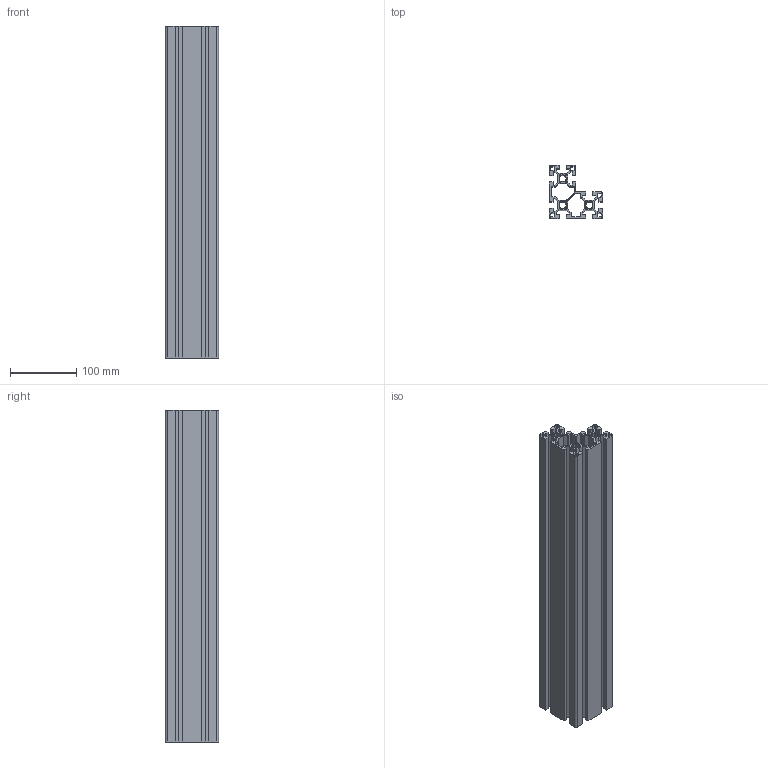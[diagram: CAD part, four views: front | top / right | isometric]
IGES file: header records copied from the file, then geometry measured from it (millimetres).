
Start section: SolidWorks IGES file using analytic representation for surfaces
Global section: file name: C:\Documents and Settings\Administrator\デスクトップ\指定保存後3回目\SolidWorks\SF\SF40・45\Frame\SFF-G24.IGS,41HSolidWorks; native system: 2006 by SolidWorks Corporation; preprocessor: SolidWorks 2006 by SolidWorks Corporation; author: Administrator; date: 061213.113837; units: millimetre
Bounding box: 80 x 80 x 500 mm (x, y, z)
Surface area: 554973.8 mm2 (no closed solid volume)
Topology: 0 solids, 0 shells, 310 faces, 3752 edges, 4676 vertices
Faces by surface type: revolution 156, bspline 154
